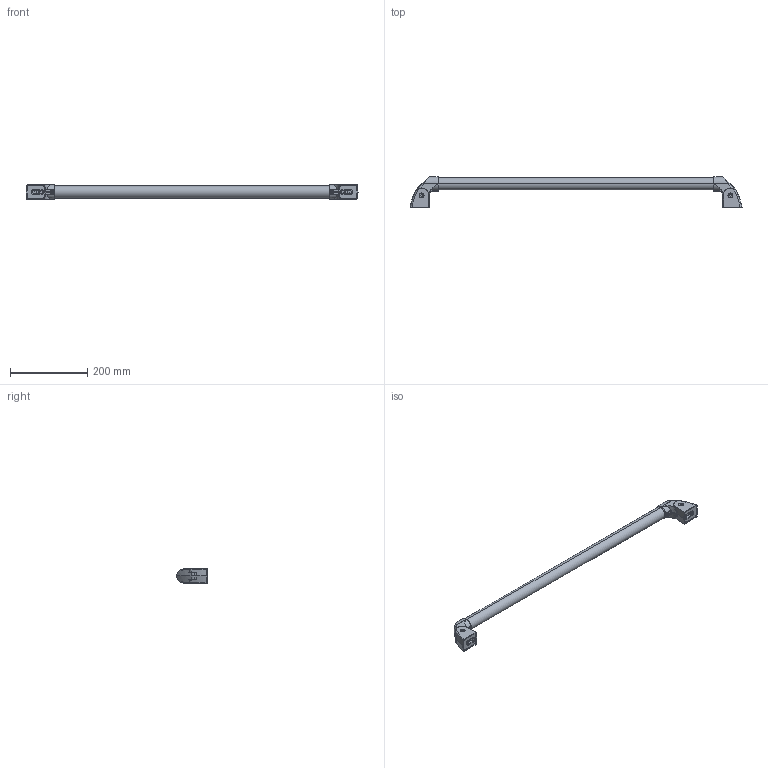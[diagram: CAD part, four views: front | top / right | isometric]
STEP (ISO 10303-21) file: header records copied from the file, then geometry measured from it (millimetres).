
FILE_DESCRIPTION (( 'STEP AP214' ), '1' );
FILE_NAME ('ETP-143-120800.STEP', '2020-03-22T14:27:40', ( '' ), ( '' ), 'SwSTEP 2.0', 'SolidWorks 2019', '' );
FILE_SCHEMA (( 'AUTOMOTIVE_DESIGN' ));
Length unit declared in the file: millimetre
Products named in the file (8): 手把座; 乖艁E; EP-12(平); EP-12(平)-1; 北角螺帽M8; ETP-143-120800; BEFA120800ｶ・ｽｺﾞ(ｬﾁﾅﾖ); ｩTｩw･・
Assembly tree (11 placements, depth 3):
  ETP-143-120800
    EP-12(平)
      手把座
      ｩTｩw･・
      北角螺帽M8
      乖艁E
    EP-12(平)-1
      手把座
      ｩTｩw･・
      北角螺帽M8
      乖艁E
    BEFA120800ｶ・ｽｺﾞ(ｬﾁﾅﾖ)
Bounding box: 859.94 x 79.12 x 38.78 mm (x, y, z)
Volume: 383437 mm3; surface area: 199768.9 mm2
Topology: 13 solids, 15 shells, 934 faces, 2124 edges, 1234 vertices
Faces by surface type: cylinder 272, cone 228, torus 216, plane 174, bspline 44
Entity records: 16474 total; most frequent: CARTESIAN_POINT 5838, DIRECTION 2246, ORIENTED_EDGE 2148, EDGE_CURVE 1074, AXIS2_PLACEMENT_3D 930, VERTEX_POINT 625, EDGE_LOOP 495, FACE_OUTER_BOUND 472
